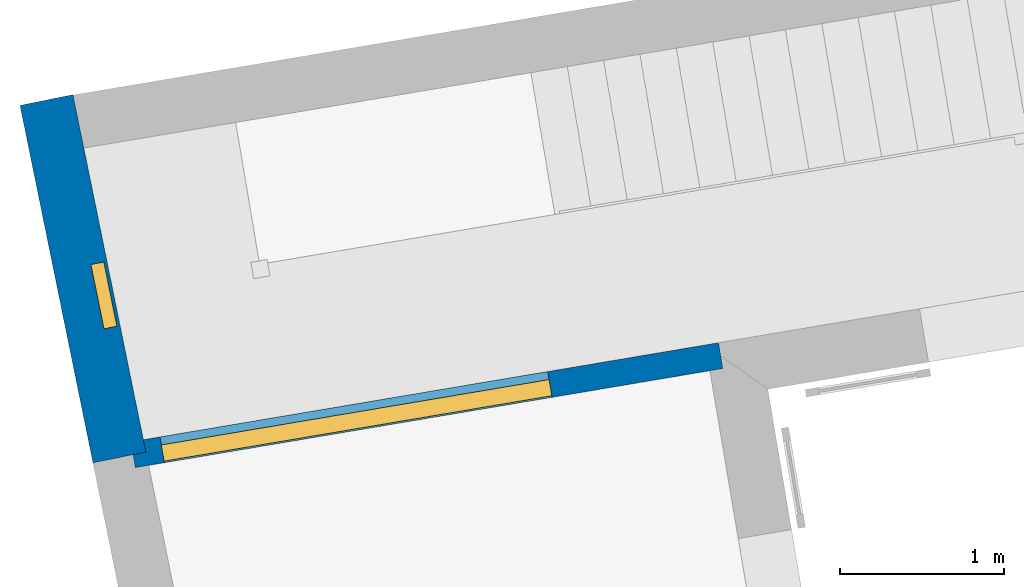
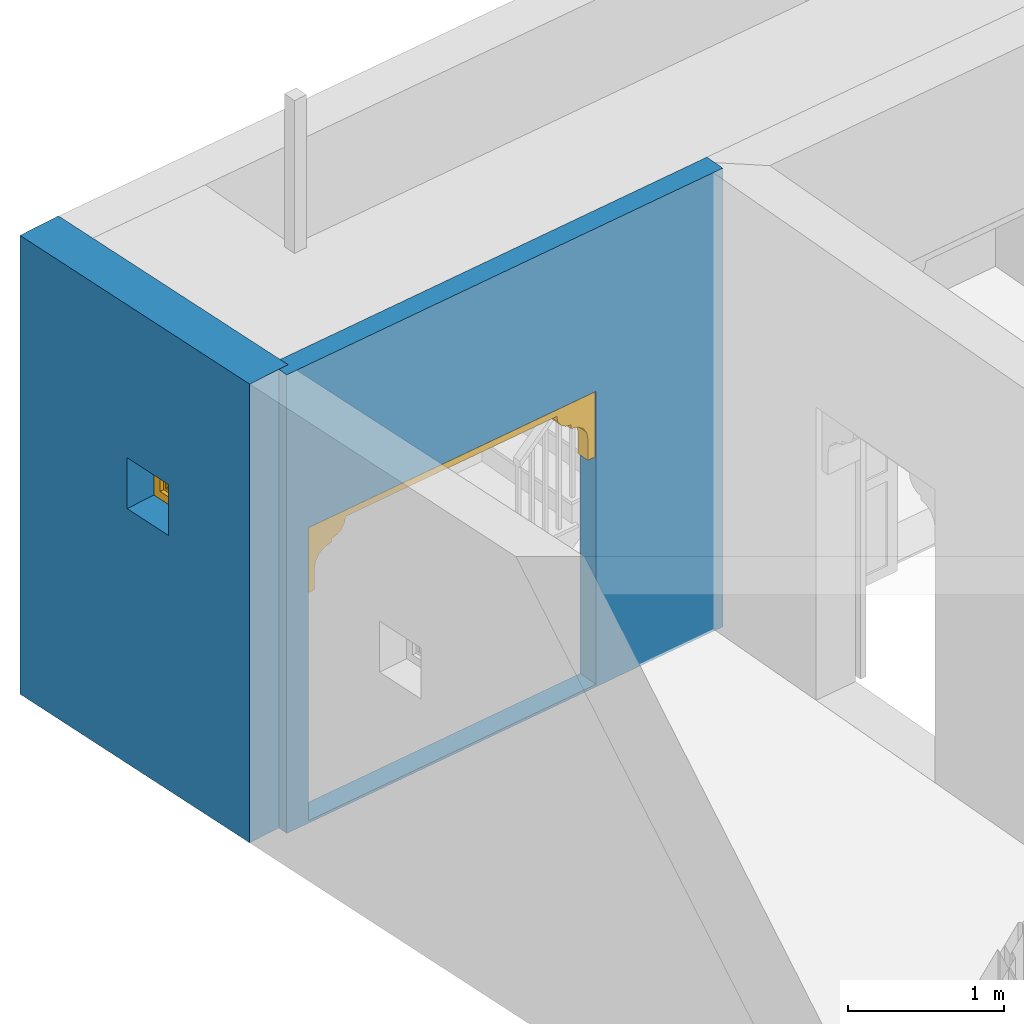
# One storey, part 8 of 15: 2 walls, 1 door, 1 window, 2 openings.
"""IFC4 building model written with IfcOpenShell, lengths in metres."""

from ifc_helpers import new_model, si_unit, frame, origin, origin_with_axes, place, context, subcontext, project, spatial, polyline, outline, extrude, faceted_brep, source, transform, mapped, material, layer, layer_set, layer_usage, type_object, type_shapes, element, fill, save


model = new_model("IFC4")

# Units and contexts
model_context = context("Model", 3, world=origin_with_axes())
body_context = subcontext(model_context, "Body", "Model", "MODEL_VIEW")
ifc_project = project(units=[si_unit("PLANEANGLEUNIT", "RADIAN"), si_unit("MASSUNIT", "GRAM", prefix="KILO"), si_unit("FORCEUNIT", "NEWTON", prefix="KILO"), si_unit("LENGTHUNIT", "METRE"), si_unit("AREAUNIT", "SQUARE_METRE"), si_unit("VOLUMEUNIT", "CUBIC_METRE")], contexts=[model_context, model_context])

# Site, building, storey
site_placement = place(None, origin_with_axes())
site = spatial("IfcSite", under=ifc_project, at=site_placement, Name="Site plot-6", CompositionType="ELEMENT")
building_placement = place(None, origin_with_axes())
building = spatial("IfcBuilding", under=site, at=building_placement, Name="Building plot-6", CompositionType="ELEMENT")
storey_placement = place(None, origin_with_axes())
storey = spatial("IfcBuildingStorey", under=building, at=storey_placement, Name="plot-6 0", CompositionType="ELEMENT", Elevation=0.0)

# Wall, opening, window
ifc_material_1 = material(Name="Masonry")
ifc_layer_1 = layer(ifc_material_1, 0.33, ventilated=False)
ifc_layer_set_1 = layer_set([ifc_layer_1], Name="exterior_0.08_0.25")
ifc_layer_usage_1 = layer_usage(ifc_layer_set_1, "AXIS2", "POSITIVE", -0.25)
wall_type_1 = type_object("IfcWallType", Name="exterior_0.08_0.25", PredefinedType="SOLIDWALL", material=ifc_layer_set_1)
wall_1_placement = place(storey_placement, frame((-10.9279927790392, 3.99736710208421, 0.0), z_axis=(0.0, 0.0, 1.0), x_axis=(0.199943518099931, -0.979807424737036, 0.0)))
wall_1 = element("IfcWall", 1, at=wall_1_placement, inside=storey, type_object=wall_type_1, material=ifc_layer_usage_1, Name="exterior", context=body_context, shape_type="SweptSolid", body=[
    extrude(outline(polyline([(-0.25, 0.0800000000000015), (-0.25, -0.25), (1.97695746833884, -0.250000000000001), (1.97695746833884, 0.0800000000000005), (-0.25, 0.0800000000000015)])), origin_with_axes(), (0.0, 0.0, 1.0), 3.6),
])
opening_1_placement = place(wall_1_placement, frame((0.78847873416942, 0.0, 2.0)))
opening_1 = element("IfcOpeningElement", 2, at=opening_1_placement, cuts=wall_1, Name="My Opening", ObjectType="Opening", context=body_context, shape_type="SweptSolid", body=[
    extrude(outline(polyline([(0.0, -0.27), (0.4, -0.27), (0.4, 1.1), (0.0, 1.1), (0.0, -0.27)])), origin_with_axes(), (0.0, 0.0, 1.0), 0.4),
])
window_type = type_object("IfcWindowType", Name="barred_window", PartitioningType="DOUBLE_PANEL_HORIZONTAL", PredefinedType="NOTDEFINED")
shared_shape_1 = source(origin(), body_context, "Body", "Brep", [
    faceted_brep([(0.4, 0.25, 0.4), (0.0, 0.25, 0.4), (0.06, 0.25, 0.34), (0.34, 0.25, 0.34), (0.06, 0.33, 0.34), (0.34, 0.33, 0.34), (0.34, 0.25, 0.06), (0.4, 0.25, 0.0), (0.4, 0.33, 0.4), (0.0, 0.33, 0.4), (0.0, 0.25, 0.0), (0.06, 0.25, 0.06), (0.06, 0.33, 0.06), (0.34, 0.33, 0.06), (0.4, 0.33, 0.0), (0.0, 0.33, 0.0), (0.136152, 0.28, 0.08), (0.08, 0.28, 0.08), (0.06, 0.28, 0.06), (0.136152, 0.28, 0.06), (0.136152, 0.29, 0.08), (0.08, 0.29, 0.08), (0.06, 0.28, 0.136152), (0.08, 0.28, 0.136152), (0.06, 0.29, 0.06), (0.136152, 0.29, 0.06), (0.170294, 0.28, 0.08), (0.170294, 0.28, 0.06), (0.136152, 0.28, 0.136152), (0.136152, 0.29, 0.136152), (0.08, 0.29, 0.136152), (0.06, 0.29, 0.136152), (0.08, 0.28, 0.170294), (0.06, 0.28, 0.170294), (0.170294, 0.29, 0.06), (0.229706, 0.28, 0.08), (0.229706, 0.28, 0.06), (0.156152, 0.28, 0.094142), (0.156152, 0.28, 0.136152), (0.185858, 0.28, 0.123848), (0.185858, 0.29, 0.123848), (0.156152, 0.29, 0.094142), (0.156152, 0.29, 0.136152), (0.229706, 0.29, 0.08), (0.170294, 0.29, 0.08), (0.2, 0.28, 0.109706), (0.2, 0.29, 0.109706), (0.06, 0.29, 0.170294), (0.094142, 0.28, 0.156152), (0.08, 0.28, 0.229706), (0.06, 0.28, 0.229706), (0.229706, 0.29, 0.06), (0.263848, 0.28, 0.08), (0.263848, 0.28, 0.06), (0.156152, 0.28, 0.156152), (0.136152, 0.28, 0.156152), (0.173553, 0.28, 0.136152), (0.173553, 0.29, 0.136152), (0.156152, 0.29, 0.156152), (0.136152, 0.29, 0.156152), (0.094142, 0.29, 0.156152), (0.08, 0.29, 0.170294), (0.06, 0.29, 0.229706), (0.123848, 0.28, 0.185858), (0.109706, 0.28, 0.2), (0.08, 0.29, 0.229706), (0.08, 0.28, 0.263848), (0.06, 0.28, 0.263848), (0.263848, 0.29, 0.06), (0.2, 0.28, 0.13799), (0.214142, 0.28, 0.123848), (0.34, 0.28, 0.06), (0.32, 0.28, 0.08), (0.181838, 0.28, 0.156152), (0.136152, 0.28, 0.173553), (0.156152, 0.28, 0.181838), (0.181838, 0.29, 0.156152), (0.2, 0.29, 0.13799), (0.214142, 0.29, 0.123848), (0.136152, 0.29, 0.173553), (0.156152, 0.29, 0.181838), (0.243848, 0.28, 0.094142), (0.243848, 0.29, 0.094142), (0.263848, 0.28, 0.136152), (0.263848, 0.29, 0.08), (0.263848, 0.29, 0.136152), (0.32, 0.29, 0.08), (0.243848, 0.28, 0.136152), (0.243848, 0.29, 0.136152), (0.06, 0.29, 0.263848), (0.123848, 0.29, 0.185858), (0.13799, 0.28, 0.2), (0.123848, 0.28, 0.214142), (0.109706, 0.29, 0.2), (0.094142, 0.28, 0.243848), (0.08, 0.28, 0.32), (0.06, 0.28, 0.34), (0.34, 0.29, 0.06), (0.218162, 0.28, 0.156152), (0.226447, 0.28, 0.136152), (0.34, 0.28, 0.229706), (0.32, 0.28, 0.229706), (0.32, 0.28, 0.170294), (0.32, 0.28, 0.136152), (0.218162, 0.29, 0.156152), (0.226447, 0.29, 0.136152), (0.13799, 0.29, 0.2), (0.32, 0.29, 0.136152), (0.08, 0.29, 0.263848), (0.06, 0.29, 0.34), (0.136152, 0.28, 0.226447), (0.156152, 0.28, 0.218162), (0.094142, 0.29, 0.243848), (0.123848, 0.29, 0.214142), (0.136152, 0.28, 0.243848), (0.136152, 0.28, 0.263848), (0.08, 0.29, 0.32), (0.136152, 0.28, 0.34), (0.136152, 0.28, 0.32), (0.34, 0.29, 0.229706), (0.243848, 0.28, 0.156152), (0.263848, 0.28, 0.156152), (0.34, 0.28, 0.263848), (0.32, 0.28, 0.263848), (0.32, 0.29, 0.229706), (0.32, 0.29, 0.170294), (0.290294, 0.28, 0.2), (0.276152, 0.28, 0.185858), (0.305858, 0.28, 0.156152), (0.243848, 0.29, 0.156152), (0.263848, 0.29, 0.156152), (0.305858, 0.29, 0.156152), (0.276152, 0.29, 0.185858), (0.290294, 0.29, 0.2), (0.136152, 0.29, 0.34), (0.136152, 0.29, 0.226447), (0.156152, 0.29, 0.218162), (0.156152, 0.28, 0.243848), (0.136152, 0.29, 0.243848), (0.156152, 0.28, 0.263848), (0.136152, 0.29, 0.263848), (0.136152, 0.29, 0.32), (0.170294, 0.28, 0.32), (0.170294, 0.28, 0.34), (0.34, 0.29, 0.263848), (0.243848, 0.28, 0.181838), (0.263848, 0.28, 0.173553), (0.34, 0.28, 0.34), (0.32, 0.28, 0.32), (0.305858, 0.28, 0.243848), (0.276152, 0.28, 0.214142), (0.26201, 0.28, 0.2), (0.243848, 0.29, 0.181838), (0.263848, 0.29, 0.173553), (0.26201, 0.29, 0.2), (0.276152, 0.29, 0.214142), (0.32, 0.29, 0.263848), (0.170294, 0.29, 0.34), (0.156152, 0.29, 0.243848), (0.173553, 0.28, 0.263848), (0.181838, 0.28, 0.243848), (0.156152, 0.28, 0.305858), (0.229706, 0.28, 0.32), (0.229706, 0.28, 0.34), (0.34, 0.29, 0.34), (0.263848, 0.28, 0.34), (0.263848, 0.28, 0.32), (0.32, 0.29, 0.32), (0.263848, 0.28, 0.263848), (0.263848, 0.28, 0.243848), (0.305858, 0.29, 0.243848), (0.263848, 0.28, 0.226447), (0.243848, 0.28, 0.218162), (0.243848, 0.29, 0.218162), (0.263848, 0.29, 0.226447), (0.156152, 0.29, 0.263848), (0.170294, 0.29, 0.32), (0.229706, 0.29, 0.34), (0.181838, 0.29, 0.243848), (0.173553, 0.29, 0.263848), (0.185858, 0.28, 0.276152), (0.2, 0.28, 0.26201), (0.156152, 0.29, 0.305858), (0.229706, 0.29, 0.32), (0.263848, 0.29, 0.34), (0.263848, 0.29, 0.32), (0.263848, 0.29, 0.263848), (0.243848, 0.28, 0.243848), (0.243848, 0.28, 0.263848), (0.263848, 0.29, 0.243848), (0.243848, 0.29, 0.243848), (0.2, 0.29, 0.26201), (0.185858, 0.29, 0.276152), (0.214142, 0.28, 0.276152), (0.218162, 0.28, 0.243848), (0.226447, 0.28, 0.263848), (0.243848, 0.28, 0.305858), (0.2, 0.28, 0.290294), (0.2, 0.29, 0.290294), (0.243848, 0.29, 0.263848), (0.218162, 0.29, 0.243848), (0.214142, 0.29, 0.276152), (0.226447, 0.29, 0.263848), (0.243848, 0.29, 0.305858)], [[[0, 1, 2, 3]], [[3, 2, 4, 5]], [[3, 6, 7, 0]], [[1, 0, 8, 9]], [[1, 10, 11, 2]], [[2, 11, 12, 4]], [[9, 8, 5, 4]], [[6, 3, 5, 13]], [[6, 11, 10, 7]], [[0, 7, 14, 8]], [[10, 1, 9, 15]], [[11, 6, 13, 12]], [[4, 12, 15, 9]], [[8, 14, 13, 5]], [[7, 10, 15, 14]], [[12, 13, 14, 15]], [[16, 17, 18, 19]], [[17, 16, 20, 21]], [[22, 18, 17, 23]], [[19, 18, 24, 25]], [[26, 16, 19, 27]], [[16, 28, 29, 20]], [[21, 20, 25, 24]], [[23, 17, 21, 30]], [[18, 22, 31, 24]], [[23, 32, 33, 22]], [[27, 19, 25, 34]], [[35, 26, 27, 36]], [[28, 16, 37, 38]], [[37, 39, 40, 41]], [[38, 37, 41, 42]], [[20, 29, 42, 41]], [[26, 35, 43, 44]], [[45, 26, 44, 46]], [[20, 44, 34, 25]], [[28, 23, 30, 29]], [[24, 31, 30, 21]], [[22, 33, 47, 31]], [[48, 32, 23]], [[32, 49, 50, 33]], [[36, 27, 34, 51]], [[39, 37, 26, 45]], [[52, 35, 36, 53]], [[38, 54, 55, 28]], [[39, 56, 57, 40]], [[41, 40, 46, 44]], [[56, 38, 42, 57]], [[58, 42, 29, 59]], [[35, 45, 46, 43]], [[44, 43, 51, 34]], [[23, 28, 55, 48]], [[29, 30, 60, 59]], [[61, 30, 31, 47]], [[33, 50, 62, 47]], [[48, 63, 64, 32]], [[49, 32, 61, 65]], [[49, 66, 67, 50]], [[53, 36, 51, 68]], [[69, 39, 45, 70]], [[53, 71, 72, 52]], [[73, 54, 38, 56]], [[74, 55, 54, 75]], [[56, 39, 69, 73]], [[40, 57, 76, 77]], [[40, 77, 78, 46]], [[58, 76, 57, 42]], [[59, 79, 80, 58]], [[45, 35, 81, 70]], [[43, 46, 78, 82]], [[83, 52, 84, 85]], [[82, 84, 43]], [[52, 72, 86, 84]], [[43, 84, 68, 51]], [[44, 20, 41]], [[70, 81, 82, 78]], [[81, 87, 88, 82]], [[48, 55, 59, 60]], [[61, 60, 30]], [[65, 61, 47, 62]], [[50, 67, 89, 62]], [[63, 48, 60, 90]], [[63, 91, 92, 64]], [[32, 64, 93, 61]], [[64, 49, 65, 93]], [[94, 66, 49]], [[66, 95, 96, 67]], [[71, 53, 68, 97]], [[98, 69, 70, 99]], [[81, 52, 83, 87]], [[72, 71, 100]], [[100, 101, 102]], [[103, 72, 100]], [[100, 102, 103]], [[54, 73, 76, 58]], [[55, 74, 79, 59]], [[75, 54, 58, 80]], [[63, 74, 75, 91]], [[73, 69, 77, 76]], [[77, 104, 105, 78]], [[79, 90, 106, 80]], [[84, 82, 88, 85]], [[103, 83, 85, 107]], [[72, 103, 107, 86]], [[97, 68, 84, 86]], [[99, 70, 78, 105]], [[87, 99, 105, 88]], [[90, 60, 61, 93]], [[108, 65, 62, 89]], [[67, 96, 109, 89]], [[74, 63, 90, 79]], [[110, 92, 91, 111]], [[49, 64, 92, 94]], [[93, 65, 112, 113]], [[94, 114, 115, 66]], [[95, 66, 108, 116]], [[117, 96, 95, 118]], [[100, 71, 97, 119]], [[69, 98, 104, 77]], [[99, 87, 120, 98]], [[87, 83, 121, 120]], [[101, 100, 122, 123]], [[102, 101, 124, 125]], [[121, 83, 103]], [[103, 102, 126]], [[126, 127, 128]], [[128, 121, 103]], [[103, 126, 128]], [[91, 75, 80, 106]], [[88, 105, 104, 129]], [[106, 90, 93, 113]], [[85, 88, 129, 130]], [[107, 85, 130]], [[131, 132, 133]], [[107, 130, 131]], [[133, 125, 107]], [[107, 131, 133]], [[124, 119, 97]], [[97, 86, 107]], [[107, 125, 124]], [[97, 107, 124]], [[108, 112, 65]], [[116, 108, 89, 109]], [[96, 117, 134, 109]], [[92, 110, 135, 113]], [[111, 91, 106, 136]], [[114, 110, 111, 137]], [[94, 92, 113, 112]], [[114, 94, 112, 138]], [[114, 137, 139, 115]], [[66, 115, 140, 108]], [[118, 95, 116, 141]], [[118, 142, 143, 117]], [[122, 100, 119, 144]], [[98, 120, 129, 104]], [[145, 120, 121, 146]], [[122, 147, 148, 123]], [[123, 149, 101]], [[101, 126, 133, 124]], [[126, 102, 125, 133]], [[127, 126, 150, 151]], [[128, 127, 132, 131]], [[121, 128, 131, 130]], [[113, 135, 136, 106]], [[129, 152, 153, 130]], [[133, 132, 154, 155]], [[119, 124, 156, 144]], [[138, 112, 108, 140]], [[109, 134, 141, 116]], [[117, 143, 157, 134]], [[110, 114, 138, 135]], [[137, 111, 136, 158]], [[159, 139, 137, 160]], [[118, 115, 139, 161]], [[115, 118, 141, 140]], [[161, 142, 118]], [[162, 163, 143, 142]], [[147, 122, 144, 164]], [[120, 145, 152, 129]], [[146, 121, 130, 153]], [[146, 127, 151, 145]], [[147, 165, 166, 148]], [[123, 148, 167, 156]], [[149, 123, 168, 169]], [[149, 150, 126, 101]], [[155, 170, 124, 133]], [[151, 150, 171, 172]], [[127, 146, 153, 132]], [[135, 138, 158, 136]], [[132, 153, 152, 154]], [[155, 154, 173, 174]], [[170, 156, 124]], [[164, 144, 156, 167]], [[158, 138, 140, 175]], [[176, 141, 134, 157]], [[143, 163, 177, 157]], [[160, 137, 158, 178]], [[139, 159, 179, 175]], [[180, 159, 160, 181]], [[161, 139, 175, 182]], [[140, 141, 182, 175]], [[166, 165, 163, 162]], [[162, 142, 176, 183]], [[165, 147, 164, 184]], [[145, 151, 154, 152]], [[148, 166, 185, 167]], [[156, 186, 168, 123]], [[187, 169, 168, 188]], [[149, 169, 189, 170]], [[150, 149, 170, 155]], [[171, 150, 155, 174]], [[171, 169, 187, 172]], [[151, 172, 173, 154]], [[189, 174, 173, 190]], [[156, 170, 189, 186]], [[184, 164, 167, 185]], [[175, 179, 178, 158]], [[176, 182, 141]], [[177, 183, 176, 157]], [[163, 165, 184, 177]], [[181, 160, 178, 191]], [[159, 180, 192, 179]], [[180, 161, 182, 192]], [[193, 181, 194, 195]], [[196, 162, 197, 193]], [[180, 197, 142, 161]], [[197, 180, 181, 193]], [[142, 197, 198, 176]], [[162, 196, 166]], [[35, 52, 81]], [[197, 162, 183, 198]], [[185, 166, 168, 186]], [[196, 188, 168, 166]], [[187, 188, 195, 194]], [[169, 171, 174, 189]], [[172, 187, 190, 173]], [[189, 190, 199, 186]], [[184, 185, 183, 177]], [[179, 192, 191, 178]], [[176, 198, 192, 182]], [[194, 181, 191, 200]], [[191, 192, 198, 201]], [[26, 37, 16]], [[193, 195, 202, 201]], [[196, 193, 201, 203]], [[191, 201, 202, 200]], [[183, 203, 201, 198]], [[188, 196, 203, 199]], [[203, 183, 185]], [[199, 203, 185, 186]], [[195, 188, 199, 202]], [[187, 194, 200, 190]], [[199, 190, 200, 202]]]),
])
type_shapes(window_type, [shared_shape_1])
window_placement = place(storey_placement, frame((-11.0348895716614, 3.17082503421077, 2.0), z_axis=(0.0, 0.0, 1.0), x_axis=(0.0799774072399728, -0.391922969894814, 0.0)))
window = element("IfcWindow", 3, at=window_placement, inside=storey, type_object=window_type, Name="circulation street window", OverallHeight=0.4, OverallWidth=0.4, context=body_context, shape_type="MappedRepresentation", body=[
    mapped(shared_shape_1, transform((0.0, 0.0, 0.0), scale=1.0)),
])
fill(opening_1, window)

# Wall, opening, door
ifc_material_2 = material(Name="Masonry")
ifc_layer_2 = layer(ifc_material_2, 0.16, ventilated=False)
ifc_layer_set_2 = layer_set([ifc_layer_2], Name="interior_0.08_0.08")
ifc_layer_usage_2 = layer_usage(ifc_layer_set_2, "AXIS2", "POSITIVE", -0.08)
wall_type_2 = type_object("IfcWallType", Name="interior_0.08_0.08", PredefinedType="SOLIDWALL", material=ifc_layer_set_2)
wall_2_placement = place(storey_placement, frame((-10.5327129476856, 2.06032949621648, 0.0), z_axis=(0.0, 0.0, 1.0), x_axis=(0.986076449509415, 0.166292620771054, 0.0)))
wall_2 = element("IfcWall", 4, at=wall_2_placement, inside=storey, type_object=wall_type_2, material=ifc_layer_usage_2, Name="interior", context=body_context, shape_type="SweptSolid", body=[
    extrude(outline(polyline([(-2.61554938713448e-16, 0.0800000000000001), (2.71352113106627e-16, -0.0800000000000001), (3.63696564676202, -0.0800000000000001), (3.63696564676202, 0.0800000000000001), (-2.61554938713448e-16, 0.0800000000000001)])), origin_with_axes(), (0.0, 0.0, 1.0), 3.6),
])
opening_2_placement = place(wall_2_placement, frame((0.179999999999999, 0.0, 0.02)))
opening_2 = element("IfcOpeningElement", 5, at=opening_2_placement, cuts=wall_2, Name="My Opening", ObjectType="Opening", context=body_context, shape_type="SweptSolid", body=[
    extrude(outline(polyline([(0.0, -0.0999999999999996), (2.4, -0.1), (2.4, 1.1), (1.11022302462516e-15, 1.1), (0.0, -0.0999999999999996)])), origin_with_axes(), (0.0, 0.0, 1.0), 2.3),
])
door_type = type_object("IfcDoorType", Name="arch-2400x2300-thin", OperationType="SINGLE_SWING_LEFT", PredefinedType="NOTDEFINED")
shared_shape_2 = source(origin(), body_context, "Body", "Brep", [
    faceted_brep([(2.4, 0.03, 1.78), (2.4, 0.03, 1.95), (2.34, 0.03, 1.95), (2.34, 0.03, 1.78), (2.34, 0.13, 1.95), (2.34, 0.13, 1.78), (2.4, 0.03, 2.12), (2.329, 0.03, 2.004), (2.4, 0.13, 1.78), (2.4, 0.13, 1.95), (2.329, 0.13, 2.004), (2.299, 0.03, 2.049), (2.4, 0.13, 2.12), (2.299, 0.13, 2.049), (2.254, 0.03, 2.079), (2.4, 0.13, 2.29), (2.4, 0.03, 2.29), (2.254, 0.13, 2.079), (2.2, 0.03, 2.09), (2.2, 0.03, 2.12), (2.154, 0.03, 2.129), (2.08, 0.13, 2.29), (2.08, 0.03, 2.29), (2.2, 0.13, 2.12), (2.154, 0.13, 2.129), (2.2, 0.13, 2.09), (2.115, 0.03, 2.155), (2.089, 0.13, 2.194), (2.08, 0.13, 2.24), (2.08, 0.03, 2.24), (2.089, 0.03, 2.194), (2.115, 0.13, 2.155), (0.06, 0.03, 1.78), (0.06, 0.03, 1.95), (0.0, 0.03, 1.95), (0.0, 0.03, 1.78), (0.06, 0.13, 1.78), (0.06, 0.13, 1.95), (0.071, 0.03, 2.004), (0.0, 0.03, 2.12), (0.0, 0.13, 1.95), (0.0, 0.13, 1.78), (0.071, 0.13, 2.004), (0.101, 0.03, 2.049), (0.0, 0.13, 2.12), (0.101, 0.13, 2.049), (0.146, 0.03, 2.079), (0.0, 0.03, 2.29), (0.0, 0.13, 2.29), (0.146, 0.13, 2.079), (0.2, 0.03, 2.12), (0.2, 0.03, 2.09), (0.246, 0.03, 2.129), (0.32, 0.03, 2.29), (0.32, 0.13, 2.29), (0.246, 0.13, 2.129), (0.2, 0.13, 2.12), (0.2, 0.13, 2.09), (0.285, 0.03, 2.155), (0.32, 0.13, 2.24), (0.311, 0.13, 2.194), (0.311, 0.03, 2.194), (0.32, 0.03, 2.24), (0.285, 0.13, 2.155)], [[[0, 1, 2, 3]], [[4, 5, 3, 2]], [[1, 6, 7, 2]], [[1, 0, 8, 9]], [[5, 8, 0, 3]], [[5, 4, 9, 8]], [[10, 4, 2, 7]], [[6, 11, 7]], [[6, 1, 9, 12]], [[4, 10, 12, 9]], [[13, 10, 7, 11]], [[6, 14, 11]], [[12, 15, 16, 6]], [[12, 10, 13]], [[17, 13, 11, 14]], [[18, 14, 6, 19]], [[6, 16, 20, 19]], [[16, 15, 21, 22]], [[23, 24, 15, 12]], [[12, 13, 17]], [[25, 17, 14, 18]], [[23, 25, 18, 19]], [[24, 23, 19, 20]], [[16, 26, 20]], [[15, 27, 28, 21]], [[16, 22, 29, 30]], [[31, 15, 24]], [[23, 12, 17, 25]], [[31, 24, 20, 26]], [[16, 30, 26]], [[28, 27, 30, 29]], [[27, 15, 31]], [[27, 31, 26, 30]], [[32, 33, 34, 35]], [[33, 32, 36, 37]], [[33, 38, 39, 34]], [[35, 34, 40, 41]], [[32, 35, 41, 36]], [[41, 40, 37, 36]], [[38, 33, 37, 42]], [[38, 43, 39]], [[44, 40, 34, 39]], [[40, 44, 42, 37]], [[43, 38, 42, 45]], [[43, 46, 39]], [[39, 47, 48, 44]], [[45, 42, 44]], [[46, 43, 45, 49]], [[50, 39, 46, 51]], [[50, 52, 47, 39]], [[53, 54, 48, 47]], [[44, 48, 55, 56]], [[49, 45, 44]], [[51, 46, 49, 57]], [[50, 51, 57, 56]], [[52, 50, 56, 55]], [[52, 58, 47]], [[54, 59, 60, 48]], [[61, 62, 53, 47]], [[55, 48, 63]], [[57, 49, 44, 56]], [[58, 52, 55, 63]], [[58, 61, 47]], [[62, 61, 60, 59]], [[63, 48, 60]], [[61, 58, 63, 60]], [[62, 59, 28, 29]], [[59, 54, 21, 28]], [[53, 62, 29, 22]], [[54, 53, 22, 21]]]),
])
type_shapes(door_type, [shared_shape_2])
door_placement = place(storey_placement, frame((-10.3385899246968, 1.99165452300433, 0.02), z_axis=(0.0, 0.0, 1.0), x_axis=(2.3665834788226, 0.39910228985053, 0.0)))
door = element("IfcDoor", 6, at=door_placement, inside=storey, type_object=door_type, Name="circulation inside door", OverallHeight=2.3, OverallWidth=2.4, context=body_context, shape_type="MappedRepresentation", body=[
    mapped(shared_shape_2, transform((0.0, 0.0, 0.0), scale=1.0)),
])
fill(opening_2, door)

save(model, "model.ifc")
